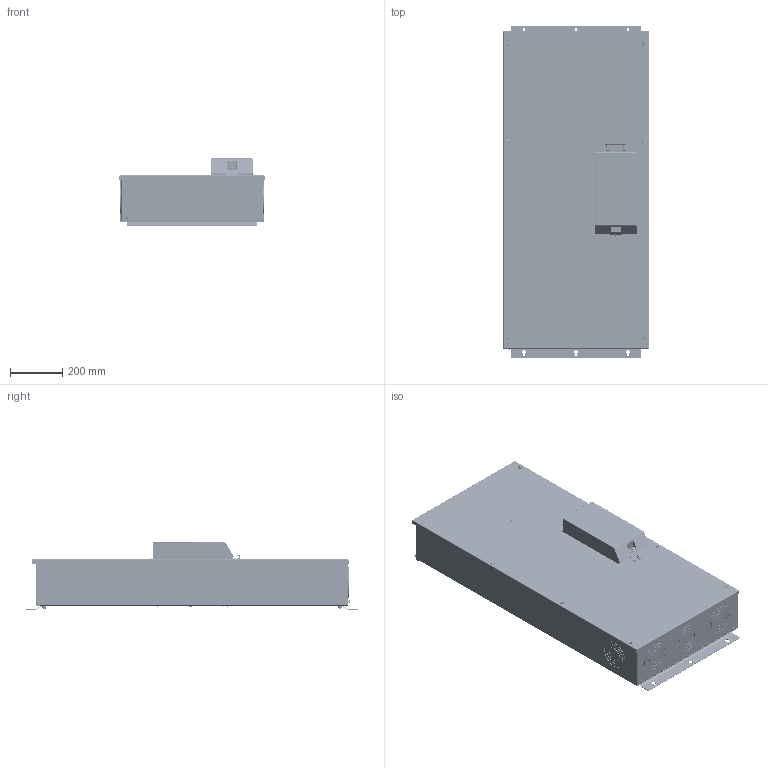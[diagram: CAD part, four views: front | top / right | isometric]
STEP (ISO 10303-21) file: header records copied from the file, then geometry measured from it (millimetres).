
FILE_DESCRIPTION((''),'2;1');
FILE_NAME('3615X1609_ASM','2023-06-01T10:52:52',('ganxw'),(''),'CREO PARAMETRIC BY PTC INC, 2020044','CREO PARAMETRIC BY PTC INC, 2020044','');
FILE_SCHEMA(('CONFIG_CONTROL_DESIGN','SHAPE_APPEARANCE_LAYERS_GROUPS'));
Products named in the file (71): 8355X1603; 8235X1604; 8055X1603; 5355X1606_ASM; 8310X1614; 8040X1603; 8040X1618; 8040X1620; 8040X1619; 8040X1621; 5310X1624001-002_ASM; 8256X1601001-002; 8372X1606; 8372X1605; SP090134; 8300X1605; 8040X1623; 8040X1624; 8040X1625; 5300X1601001-002_ASM; 8372X1609; 8372X1610; SP050319; SP040827; SP100082; 8040X1622; 8372X1614; 5310X1623001-002_AF0_ASM; 8062X1603; 8040X1609; 8900X1601; SP040840; SP040838; 8040X1613; SP030351; 5040X1602001-002_ASM; SP050323; SP050324; SP010321; 5355X1618_ASM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
Assembly tree (135 placements, depth 5):
  3615X1609_ASM
    5355X1618_ASM
      5355X1606_ASM
        8355X1603
        8235X1604
        8055X1603
      5310X1623001-002_AF0_ASM
        5310X1624001-002_ASM
          8310X1614
          8040X1603
          8040X1618  x2
          8040X1620  x2
          8040X1619
          8040X1621
        8256X1601001-002
        8372X1606  x2
        8372X1605  x2
        SP090134  x3
        5300X1601001-002_ASM
          8300X1605
          8040X1623  x2
          8040X1624  x2
          8040X1625
        8372X1609  x2
        8372X1610  x2
        SP050319  x3
        SP040827
        SP100082
        8040X1622
        8372X1614
      8062X1603
      8040X1609  x2
      8900X1601  x8
      SP040840  x8
      SP040838
      5040X1602001-002_ASM  x2
        8040X1613
        SP030351
      SP050323  x6
      SP050324  x6
      SP010321  x6
    M3
    6623X1603_ASM
      8754X1603
      8580X1605
      8580X1606
      8574M0726112
      8900M0312103-1  x3
      SP050040  x4
      SP050025  x2
      SP040194  x2
      SP030370  x2
      SP030367  x4
      8574M0726111  x2
      8900M0312003  x2
      8900M0312119  x2
      8580X1614
      SP050045
      SP050348
      SP040826
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Bounding box: 558.8 x 1275.59 x 257.64 mm (x, y, z)
Volume: 5638590.7 mm3; surface area: 6162088.4 mm2
Topology: 177 solids, 248 shells, 18116 faces, 48888 edges, 31558 vertices
Faces by surface type: plane 12493, cylinder 3304, extrusion 727, cone 711, torus 425, bspline 248, sphere 208
Entity records: 587924 total; most frequent: CARTESIAN_POINT 151681, ORIENTED_EDGE 79833, DIRECTION 71279, EDGE_CURVE 40007, VECTOR 30697, LINE 30309, VERTEX_POINT 25961, AXIS2_PLACEMENT_3D 20291
